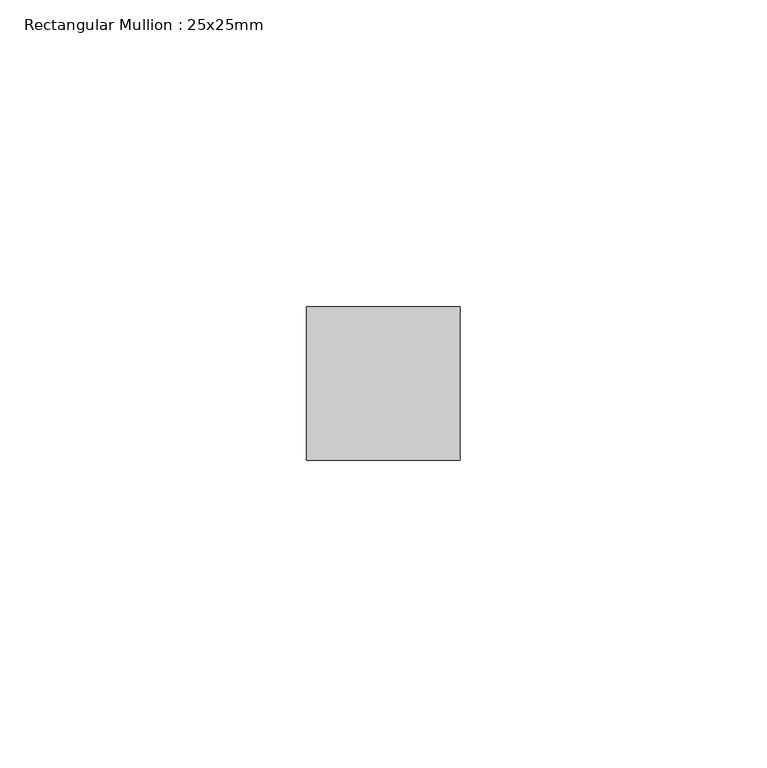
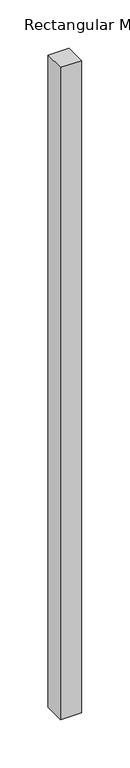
"""IFC4 building model written with IfcOpenShell, lengths in millimetres: member geometry, Rectangular Mullion : 25x25mm."""

from ifc_helpers import new_model, si_unit, frame, origin, place, context, project, spatial, polyline, outline, extrude, source, transform, mapped, element, save


def rectangular_mullion_25x25mm_6f7df1f0(model_context):
    return source(origin(), model_context, "Body", "SweptSolid", [
        extrude(outline(polyline([(0.0, 0.5), (0.0, -24.5), (-25.0, -24.5), (-25.0, 0.5), (0.0, 0.5)])), frame((0.0, 0.0, -820.8333336), z_axis=(0.0, 0.0, 1.0), x_axis=(1.0, 0.0, 0.0)), (0.0, 0.0, 1.0), 820.8333336),
    ])


if __name__ == "__main__":
    model = new_model("IFC4")
    model_context = context("Model", 3, world=origin())
    ifc_project = project(units=[si_unit("LENGTHUNIT", "METRE", prefix="MILLI")], contexts=[model_context])
    site = spatial("IfcSite", under=ifc_project)
    building = spatial("IfcBuilding", under=site)
    placement = place(None, origin())
    rectangular_mullion_25x25mm_shape = rectangular_mullion_25x25mm_6f7df1f0(model_context)
    element("IfcMember", 1, ObjectType="Rectangular Mullion : 25x25mm", at=placement, inside=building, context=model_context, shape_type="MappedRepresentation", body=[
        mapped(rectangular_mullion_25x25mm_shape, transform((0.0, 0.0, 0.0), x_axis=(1.0, 0.0, 0.0), y_axis=(0.0, 1.0, 0.0), z_axis=(0.0, 0.0, 1.0))),
    ])
    save(model, "model.ifc")
